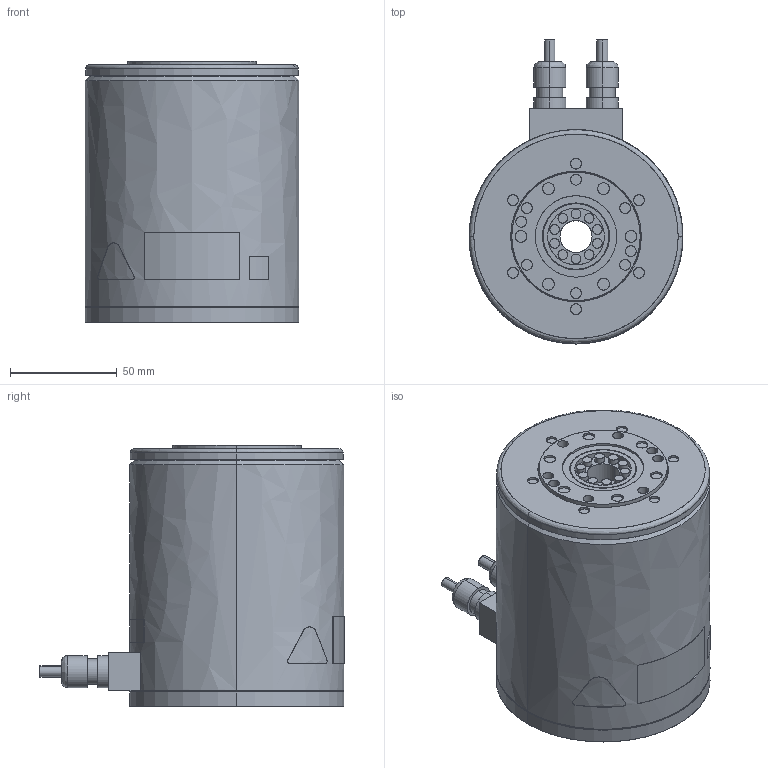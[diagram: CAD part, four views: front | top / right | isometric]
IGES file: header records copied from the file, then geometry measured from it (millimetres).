
Start section: SolidWorks IGES file using analytic representation for surfaces
Bounding box: 100 x 142.1 x 122 mm (x, y, z)
Surface area: 67524.2 mm2 (no closed solid volume)
Topology: 0 solids, 0 shells, 227 faces, 5436 edges, 5436 vertices
Faces by surface type: revolution 135, bspline 92
